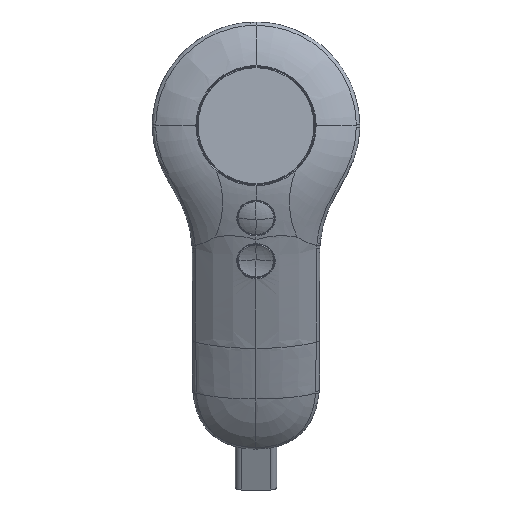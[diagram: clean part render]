
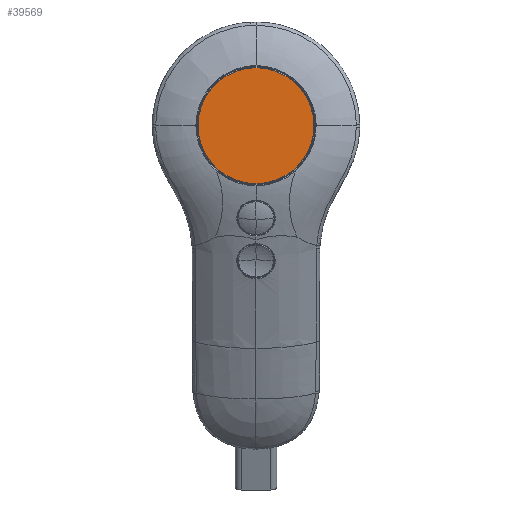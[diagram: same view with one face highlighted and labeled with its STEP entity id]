
A CAD part, top view. The second image highlights one B-rep face of the part: STEP entity #39569.
In plain terms, the highlighted planar face has unit normal (0, 0, 1).
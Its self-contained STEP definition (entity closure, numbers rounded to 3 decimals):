
#7253=CARTESIAN_POINT('',(0.,104.5,43.));
#7254=DIRECTION('',(0.,0.,-1.));
#7255=DIRECTION('',(1.,0.,0.));
#7256=AXIS2_PLACEMENT_3D('',#7253,#7254,#7255);
#7258=CARTESIAN_POINT('',(0.,104.5,43.));
#7259=DIRECTION('',(0.,0.,-1.));
#7260=DIRECTION('',(-1.,0.,0.));
#7261=AXIS2_PLACEMENT_3D('',#7258,#7259,#7260);
#9542=CARTESIAN_POINT('',(17.288,104.5,43.));
#9543=CARTESIAN_POINT('',(-17.288,104.5,43.));
#9544=VERTEX_POINT('',#9542);
#9545=VERTEX_POINT('',#9543);
#39559=CARTESIAN_POINT('',(0.,0.,43.));
#39560=DIRECTION('',(0.,0.,1.));
#39561=DIRECTION('',(1.,0.,0.));
#39562=AXIS2_PLACEMENT_3D('',#39559,#39560,#39561);
#39563=PLANE('2832',#39562);
#39564=ORIENTED_EDGE('2423',*,*,#39549,.T.);
#39566=ORIENTED_EDGE('2426',*,*,#39565,.T.);
#39567=EDGE_LOOP('2832',(#39564,#39566));
#39568=FACE_OUTER_BOUND('2832',#39567,.F.);
#7257=CIRCLE('2423',#7256,17.288);
#7262=CIRCLE('2426',#7261,17.288);
#39549=EDGE_CURVE('2423',#9544,#9545,#7257,.T.);
#39565=EDGE_CURVE('2426',#9545,#9544,#7262,.T.);
#39569=ADVANCED_FACE('2832',(#39568),#39563,.T.);
